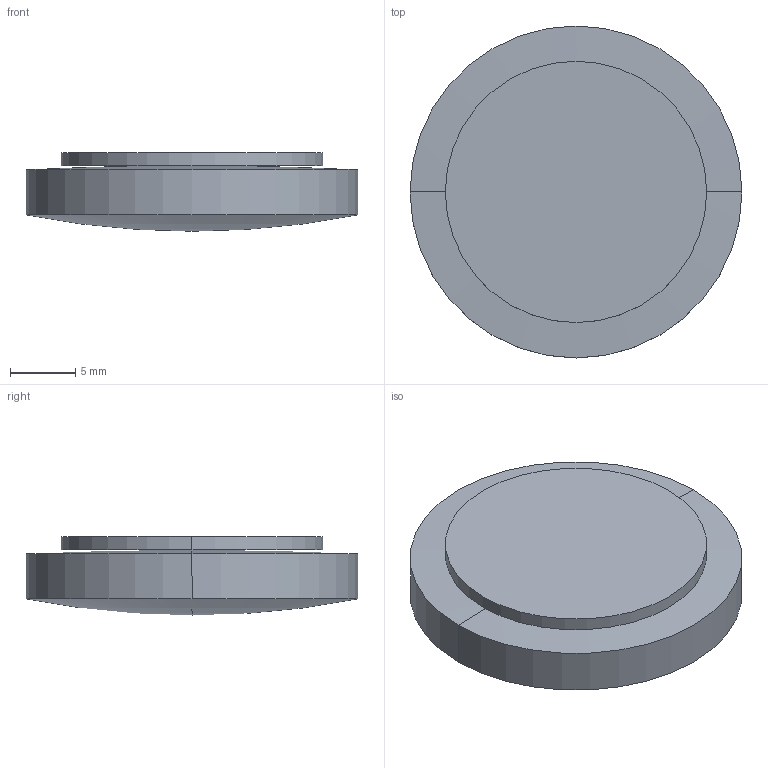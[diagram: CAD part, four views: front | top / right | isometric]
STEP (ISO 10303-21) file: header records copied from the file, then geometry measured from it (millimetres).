
FILE_DESCRIPTION(('STEP AP214'),'1');
FILE_NAME('LLR-25125.STEP','2020-03-09T17:41:57',(' '),(' '),'Spatial InterOp 3D',' ',' ');
FILE_SCHEMA(('AUTOMOTIVE_DESIGN { 1 0 10303 214 1 1 1 1 }'));
Length unit declared in the file: millimetre
Products named in the file (1): 1
Bounding box: 25.4 x 25.4 x 6 mm (x, y, z)
Volume: 2455.3 mm3; surface area: 1984.8 mm2
Topology: 2 solids, 2 shells, 10 faces, 20 edges, 10 vertices
Faces by surface type: sphere 4, cylinder 4, plane 2
Entity records: 255 total; most frequent: DIRECTION 52, CARTESIAN_POINT 38, ORIENTED_EDGE 32, AXIS2_PLACEMENT_3D 24, EDGE_CURVE 16, CIRCLE 12, ADVANCED_FACE 10, FACE_OUTER_BOUND 10
